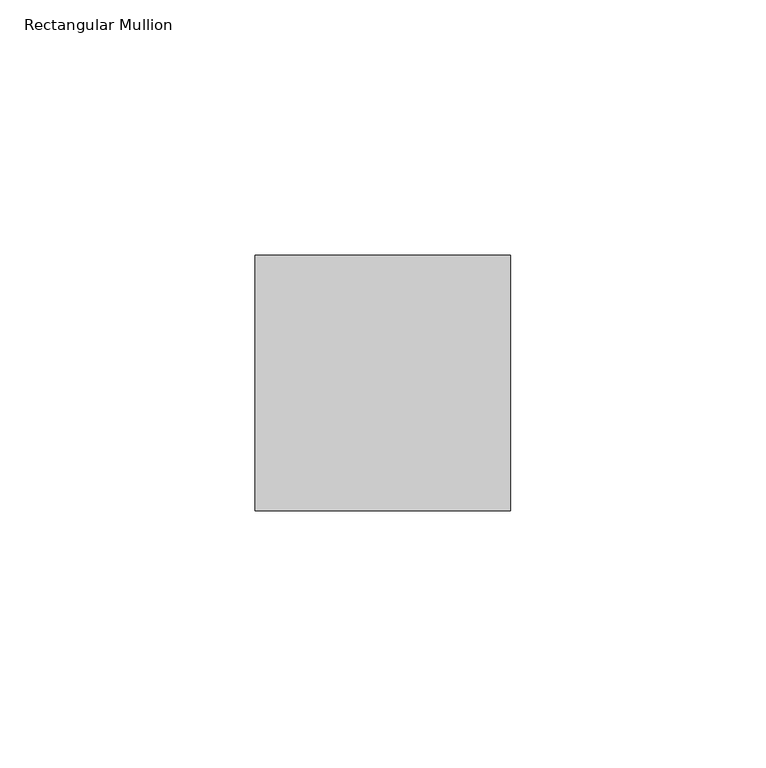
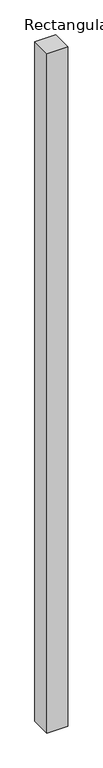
"""IFC4 building model written with IfcOpenShell, lengths in millimetres: member geometry, Rectangular Mullion : Mullion_Curtain Wall_Generic Showcase_50x50mm."""

from ifc_helpers import new_model, si_unit, frame, origin, place, context, project, spatial, polyline, outline, extrude, source, transform, mapped, element, save


def rectangular_mullion_73658c05(model_context):
    return source(origin(), model_context, "Body", "SweptSolid", [
        extrude(outline(polyline([(0.0, 50.0), (0.0, 0.0), (-50.0, 0.0), (-50.0, 50.0), (0.0, 50.0)])), frame((0.0, 0.0, -1725.0), z_axis=(0.0, 0.0, 1.0), x_axis=(1.0, 0.0, 0.0)), (0.0, 0.0, 1.0), 1725.0),
    ])


if __name__ == "__main__":
    model = new_model("IFC4")
    model_context = context("Model", 3, world=origin())
    ifc_project = project(units=[si_unit("LENGTHUNIT", "METRE", prefix="MILLI")], contexts=[model_context])
    site = spatial("IfcSite", under=ifc_project)
    building = spatial("IfcBuilding", under=site)
    placement = place(None, origin())
    rectangular_mullion_shape = rectangular_mullion_73658c05(model_context)
    element("IfcMember", 1, ObjectType="Rectangular Mullion : Mullion_Curtain Wall_Generic Showcase_50x50mm", at=placement, inside=building, context=model_context, shape_type="MappedRepresentation", body=[
        mapped(rectangular_mullion_shape, transform((0.0, 0.0, 0.0), x_axis=(1.0, 0.0, 0.0), y_axis=(0.0, 1.0, 0.0), z_axis=(0.0, 0.0, 1.0))),
    ])
    save(model, "model.ifc")
